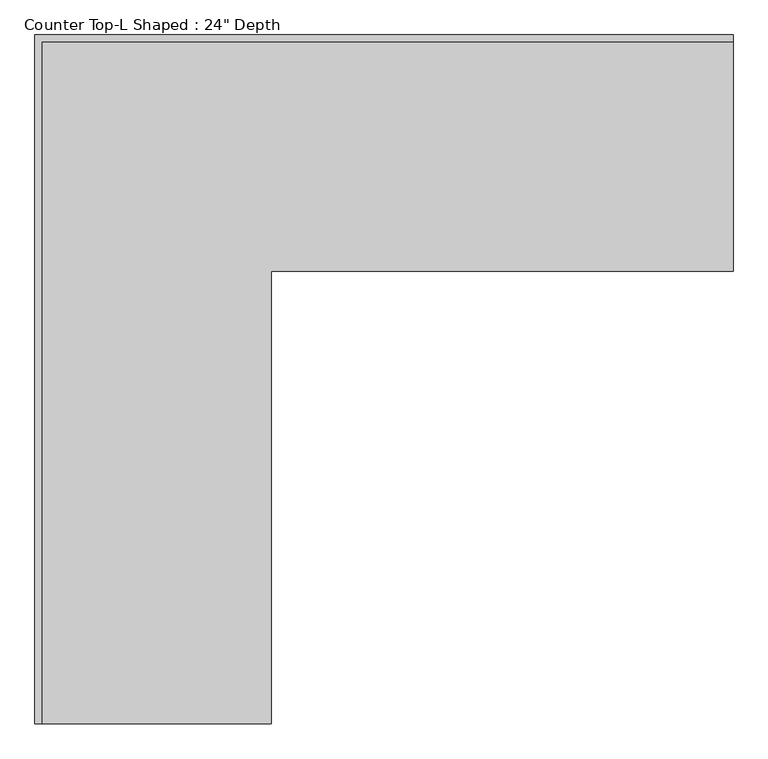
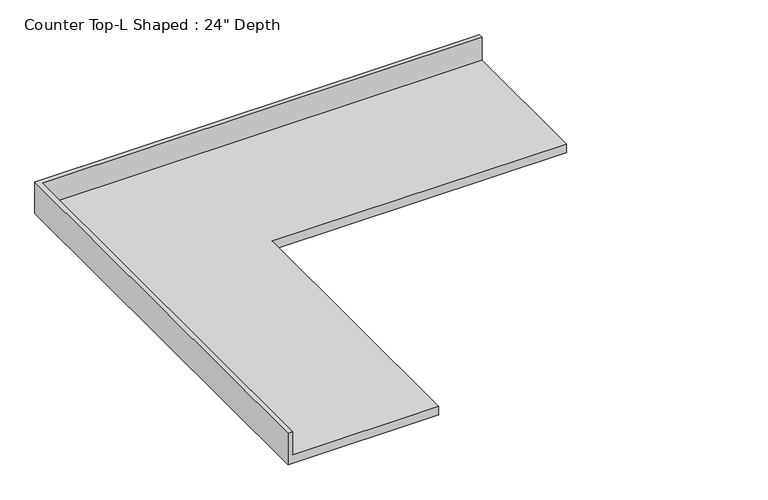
"""IFC4 building model written with IfcOpenShell, lengths in millimetres: furniture geometry."""

from ifc_helpers import new_model, si_unit, origin, place, context, project, spatial, faceted_brep, source, transform, mapped, element, save


def furniture_78cc8150(model_context):
    return source(origin(), model_context, "Body", "Brep", [
        faceted_brep([(-565.4622951, -1851.025, 914.4), (-565.4622951, -635.0, 914.4), (675.9627049, -635.0, 914.4), (675.9627049, -19.05, 914.4), (-1181.4122951, -19.05, 914.4), (-1181.4122951, -1851.025, 914.4), (675.9627049, 0.0, 876.3), (675.9627049, -635.0, 876.3), (-565.4622951, -635.0, 876.3), (-565.4622951, -1851.025, 876.3), (-1200.4622951, -1851.025, 876.3), (-1200.4622951, 0.0, 876.3), (-1200.4622951, 0.0, 1016.0), (675.9627049, 0.0, 1016.0), (-1200.4622951, -1851.025, 1016.0), (-1181.4122951, -1851.025, 1016.0), (675.9627049, -19.05, 1016.0), (-1181.4122951, -19.05, 1016.0)], [[[0, 1, 2, 3, 4, 5]], [[6, 7, 8, 9, 10, 11]], [[6, 11, 12, 13]], [[11, 10, 14, 12]], [[14, 10, 9, 0, 5, 15]], [[1, 0, 9, 8]], [[2, 1, 8, 7]], [[7, 6, 13, 16, 3, 2]], [[12, 14, 15, 17, 16, 13]], [[3, 16, 17, 4]], [[17, 15, 5, 4]]]),
    ])


if __name__ == "__main__":
    model = new_model("IFC4")
    model_context = context("Model", 3, world=origin())
    ifc_project = project(units=[si_unit("LENGTHUNIT", "METRE", prefix="MILLI")], contexts=[model_context])
    site = spatial("IfcSite", under=ifc_project)
    building = spatial("IfcBuilding", under=site)
    placement = place(None, origin())
    furniture_shape = furniture_78cc8150(model_context)
    element("IfcFurniture", 1, ObjectType="Counter Top-L Shaped : 24\" Depth", at=placement, inside=building, context=model_context, shape_type="MappedRepresentation", body=[
        mapped(furniture_shape, transform((0.0, 0.0, 0.0), x_axis=(1.0, 0.0, 0.0), y_axis=(0.0, 1.0, 0.0), z_axis=(0.0, 0.0, 1.0))),
    ])
    save(model, "model.ifc")
